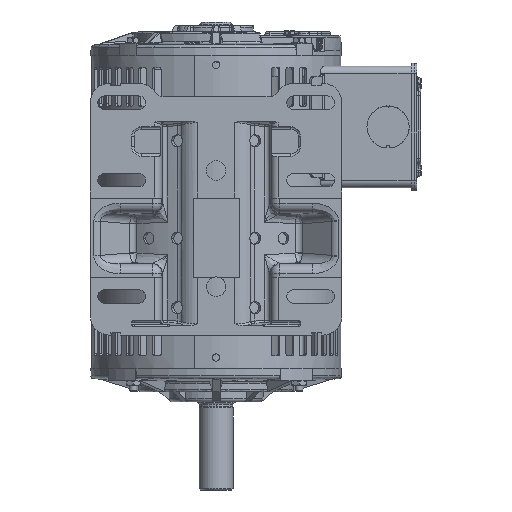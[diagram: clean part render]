
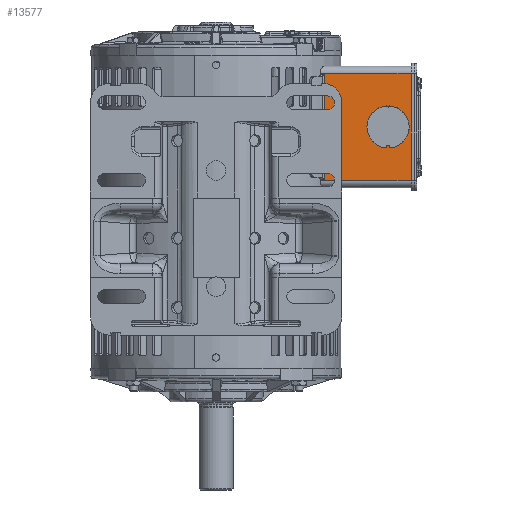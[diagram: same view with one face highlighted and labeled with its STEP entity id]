
A CAD part, front view. The second image highlights one B-rep face of the part: STEP entity #13577.
In plain terms, the highlighted planar face has unit normal (0, -1, 0).
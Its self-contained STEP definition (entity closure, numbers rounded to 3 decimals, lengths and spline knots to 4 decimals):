
#166 = LINE ( 'NONE', #27798, #136636 ) ;
#2764 = CARTESIAN_POINT ( 'NONE',  ( 4.47, -1.81, 9.9186 ) ) ;
#2971 = AXIS2_PLACEMENT_3D ( 'NONE', #88276, #111315, #110389 ) ;
#5074 = ORIENTED_EDGE ( 'NONE', *, *, #136909, .T. ) ;
#5338 = DIRECTION ( 'NONE',  ( 1., 0., 0. ) ) ;
#5422 = CARTESIAN_POINT ( 'NONE',  ( 4.44, -1.81, 9.3744 ) ) ;
#5608 = CIRCLE ( 'NONE', #69758, 0.545 ) ;
#7398 = CIRCLE ( 'NONE', #2971, 0.03 ) ;
#7905 = CARTESIAN_POINT ( 'NONE',  ( 4.395, -1.81, 8.8313 ) ) ;
#8619 = EDGE_CURVE ( 'NONE', #118068, #122539, #55909, .T. ) ;
#8664 = DIRECTION ( 'NONE',  ( -1., 0., 0. ) ) ;
#10751 = ORIENTED_EDGE ( 'NONE', *, *, #32827, .T. ) ;
#11434 = VERTEX_POINT ( 'NONE', #41101 ) ;
#13577 = ADVANCED_FACE ( 'NONE', ( #123854, #14329 ), #59937, .F. ) ;
#14329 = FACE_OUTER_BOUND ( 'NONE', #114294, .T. ) ;
#15700 = VECTOR ( 'NONE', #92910, 39.3701 ) ;
#16411 = AXIS2_PLACEMENT_3D ( 'NONE', #82065, #134365, #5338 ) ;
#16506 = ORIENTED_EDGE ( 'NONE', *, *, #47724, .F. ) ;
#18704 = ORIENTED_EDGE ( 'NONE', *, *, #108724, .T. ) ;
#21033 = CARTESIAN_POINT ( 'NONE',  ( 5.14, -1.81, 10.7645 ) ) ;
#21243 = DIRECTION ( 'NONE',  ( 1., 0., 0. ) ) ;
#21787 = VERTEX_POINT ( 'NONE', #89645 ) ;
#24452 = EDGE_CURVE ( 'NONE', #21787, #106206, #7398, .T. ) ;
#25462 = LINE ( 'NONE', #92089, #81124 ) ;
#25778 = DIRECTION ( 'NONE',  ( -1., 0., 0. ) ) ;
#26469 = EDGE_CURVE ( 'NONE', #21787, #72515, #112937, .T. ) ;
#27139 = DIRECTION ( 'NONE',  ( -1., 0., 0. ) ) ;
#27595 = DIRECTION ( 'NONE',  ( 0., -1., 0. ) ) ;
#27798 = CARTESIAN_POINT ( 'NONE',  ( 2.6873, -1.81, 7.8045 ) ) ;
#30132 = VECTOR ( 'NONE', #21243, 39.3701 ) ;
#30711 = CARTESIAN_POINT ( 'NONE',  ( 4.395, -1.81, 8.8313 ) ) ;
#32827 = EDGE_CURVE ( 'NONE', #134888, #75536, #118262, .T. ) ;
#33808 = DIRECTION ( 'NONE',  ( -1., 0., 0. ) ) ;
#34148 = VECTOR ( 'NONE', #115760, 39.3701 ) ;
#34558 = ORIENTED_EDGE ( 'NONE', *, *, #55648, .T. ) ;
#38315 = EDGE_CURVE ( 'NONE', #40691, #106206, #5608, .T. ) ;
#38328 = CARTESIAN_POINT ( 'NONE',  ( 4.44, -1.81, 9.3744 ) ) ;
#38812 = ORIENTED_EDGE ( 'NONE', *, *, #70510, .T. ) ;
#39204 = CARTESIAN_POINT ( 'NONE',  ( 2.6873, -1.81, 10.7645 ) ) ;
#39850 = CARTESIAN_POINT ( 'NONE',  ( 5.14, -1.81, 7.8045 ) ) ;
#40012 = VERTEX_POINT ( 'NONE', #134834 ) ;
#40691 = VERTEX_POINT ( 'NONE', #74838 ) ;
#41101 = CARTESIAN_POINT ( 'NONE',  ( 2.6873, -1.81, 7.9844 ) ) ;
#45640 = EDGE_CURVE ( 'NONE', #78135, #118068, #123253, .T. ) ;
#46229 = VERTEX_POINT ( 'NONE', #81679 ) ;
#47724 = EDGE_CURVE ( 'NONE', #72515, #122539, #62487, .T. ) ;
#48128 = ORIENTED_EDGE ( 'NONE', *, *, #24452, .T. ) ;
#54781 = CARTESIAN_POINT ( 'NONE',  ( 2.6873, -1.81, 7.8045 ) ) ;
#55648 = EDGE_CURVE ( 'NONE', #95697, #83725, #25462, .T. ) ;
#55909 = LINE ( 'NONE', #7905, #34148 ) ;
#56220 = VECTOR ( 'NONE', #92538, 39.3701 ) ;
#58942 = ORIENTED_EDGE ( 'NONE', *, *, #138827, .F. ) ;
#59499 = CARTESIAN_POINT ( 'NONE',  ( 4.485, -1.81, 8.8313 ) ) ;
#59866 = DIRECTION ( 'NONE',  ( 0., -1., 0. ) ) ;
#59937 = PLANE ( 'NONE',  #16411 ) ;
#60387 = CARTESIAN_POINT ( 'NONE',  ( 2.7915, -1.81, 8.0145 ) ) ;
#61619 = LINE ( 'NONE', #131751, #100376 ) ;
#62487 = CIRCLE ( 'NONE', #117536, 0.545 ) ;
#69277 = ORIENTED_EDGE ( 'NONE', *, *, #38315, .F. ) ;
#69758 = AXIS2_PLACEMENT_3D ( 'NONE', #5422, #27595, #27139 ) ;
#70510 = EDGE_CURVE ( 'NONE', #46229, #134888, #130941, .T. ) ;
#72515 = VERTEX_POINT ( 'NONE', #82397 ) ;
#73080 = LINE ( 'NONE', #59499, #15700 ) ;
#73502 = EDGE_CURVE ( 'NONE', #75536, #86664, #116040, .T. ) ;
#73736 = ORIENTED_EDGE ( 'NONE', *, *, #8619, .T. ) ;
#73891 = DIRECTION ( 'NONE',  ( 1., 0., 0. ) ) ;
#74572 = VECTOR ( 'NONE', #99057, 39.3701 ) ;
#74838 = CARTESIAN_POINT ( 'NONE',  ( 4.485, -1.81, 8.8313 ) ) ;
#75103 = ORIENTED_EDGE ( 'NONE', *, *, #107814, .T. ) ;
#75536 = VERTEX_POINT ( 'NONE', #83841 ) ;
#75567 = ORIENTED_EDGE ( 'NONE', *, *, #45640, .T. ) ;
#78135 = VERTEX_POINT ( 'NONE', #104605 ) ;
#81124 = VECTOR ( 'NONE', #8664, 39.3701 ) ;
#81325 = ORIENTED_EDGE ( 'NONE', *, *, #73502, .T. ) ;
#81679 = CARTESIAN_POINT ( 'NONE',  ( 5.14, -1.81, 10.7645 ) ) ;
#82065 = CARTESIAN_POINT ( 'NONE',  ( 5.14, -1.81, 7.8045 ) ) ;
#82397 = CARTESIAN_POINT ( 'NONE',  ( 3.895, -1.81, 9.3744 ) ) ;
#83725 = VERTEX_POINT ( 'NONE', #104287 ) ;
#83841 = CARTESIAN_POINT ( 'NONE',  ( 2.6873, -1.81, 10.7345 ) ) ;
#84453 = VECTOR ( 'NONE', #25778, 39.3701 ) ;
#85801 = CARTESIAN_POINT ( 'NONE',  ( 4.395, -1.81, 8.8845 ) ) ;
#86664 = VERTEX_POINT ( 'NONE', #115048 ) ;
#88276 = CARTESIAN_POINT ( 'NONE',  ( 4.44, -1.81, 9.9194 ) ) ;
#89645 = CARTESIAN_POINT ( 'NONE',  ( 4.41, -1.81, 9.9186 ) ) ;
#90264 = CARTESIAN_POINT ( 'NONE',  ( 4.485, -1.81, 8.8845 ) ) ;
#90511 = VECTOR ( 'NONE', #33808, 39.3701 ) ;
#92089 = CARTESIAN_POINT ( 'NONE',  ( 5.14, -1.81, 8.0145 ) ) ;
#92538 = DIRECTION ( 'NONE',  ( 0., 0., 1. ) ) ;
#92910 = DIRECTION ( 'NONE',  ( 0., 0., 1. ) ) ;
#95697 = VERTEX_POINT ( 'NONE', #60387 ) ;
#96711 = AXIS2_PLACEMENT_3D ( 'NONE', #102698, #59866, #104064 ) ;
#97494 = CARTESIAN_POINT ( 'NONE',  ( 2.7915, -1.81, 10.7345 ) ) ;
#99057 = DIRECTION ( 'NONE',  ( 0., 0., -1. ) ) ;
#100376 = VECTOR ( 'NONE', #132200, 39.3701 ) ;
#102698 = CARTESIAN_POINT ( 'NONE',  ( 4.44, -1.81, 9.3744 ) ) ;
#104064 = DIRECTION ( 'NONE',  ( -1., 0., 0. ) ) ;
#104287 = CARTESIAN_POINT ( 'NONE',  ( 2.6873, -1.81, 8.0145 ) ) ;
#104605 = CARTESIAN_POINT ( 'NONE',  ( 4.485, -1.81, 8.8845 ) ) ;
#105115 = LINE ( 'NONE', #39850, #56220 ) ;
#106206 = VERTEX_POINT ( 'NONE', #2764 ) ;
#107722 = ORIENTED_EDGE ( 'NONE', *, *, #116908, .T. ) ;
#107814 = EDGE_CURVE ( 'NONE', #40012, #46229, #105115, .T. ) ;
#108724 = EDGE_CURVE ( 'NONE', #40691, #78135, #73080, .T. ) ;
#110389 = DIRECTION ( 'NONE',  ( -1., 0., 0. ) ) ;
#111315 = DIRECTION ( 'NONE',  ( 0., -1., 0. ) ) ;
#111839 = VECTOR ( 'NONE', #73891, 39.3701 ) ;
#112937 = CIRCLE ( 'NONE', #96711, 0.545 ) ;
#113597 = DIRECTION ( 'NONE',  ( 0., -1., 0. ) ) ;
#114294 = EDGE_LOOP ( 'NONE', ( #10751, #81325, #107722, #34558, #58942, #5074, #75103, #38812 ) ) ;
#115048 = CARTESIAN_POINT ( 'NONE',  ( 2.7915, -1.81, 10.7345 ) ) ;
#115760 = DIRECTION ( 'NONE',  ( 0., 0., -1. ) ) ;
#116040 = LINE ( 'NONE', #97494, #30132 ) ;
#116908 = EDGE_CURVE ( 'NONE', #86664, #95697, #61619, .T. ) ;
#117536 = AXIS2_PLACEMENT_3D ( 'NONE', #38328, #113597, #133850 ) ;
#118068 = VERTEX_POINT ( 'NONE', #85801 ) ;
#118262 = LINE ( 'NONE', #54781, #74572 ) ;
#122539 = VERTEX_POINT ( 'NONE', #30711 ) ;
#123253 = LINE ( 'NONE', #90264, #84453 ) ;
#123854 = FACE_BOUND ( 'NONE', #139057, .T. ) ;
#124757 = DIRECTION ( 'NONE',  ( 0., 0., 1. ) ) ;
#130386 = LINE ( 'NONE', #139725, #111839 ) ;
#130941 = LINE ( 'NONE', #21033, #90511 ) ;
#131751 = CARTESIAN_POINT ( 'NONE',  ( 2.7915, -1.81, 8.0745 ) ) ;
#132200 = DIRECTION ( 'NONE',  ( 0., 0., -1. ) ) ;
#132642 = ORIENTED_EDGE ( 'NONE', *, *, #26469, .F. ) ;
#133850 = DIRECTION ( 'NONE',  ( -1., 0., 0. ) ) ;
#134365 = DIRECTION ( 'NONE',  ( 0., 1., 0. ) ) ;
#134834 = CARTESIAN_POINT ( 'NONE',  ( 5.14, -1.81, 7.9844 ) ) ;
#134888 = VERTEX_POINT ( 'NONE', #39204 ) ;
#136636 = VECTOR ( 'NONE', #124757, 39.3701 ) ;
#136909 = EDGE_CURVE ( 'NONE', #11434, #40012, #130386, .T. ) ;
#138827 = EDGE_CURVE ( 'NONE', #11434, #83725, #166, .T. ) ;
#139057 = EDGE_LOOP ( 'NONE', ( #132642, #48128, #69277, #18704, #75567, #73736, #16506 ) ) ;
#139725 = CARTESIAN_POINT ( 'NONE',  ( 5.14, -1.81, 7.9844 ) ) ;
